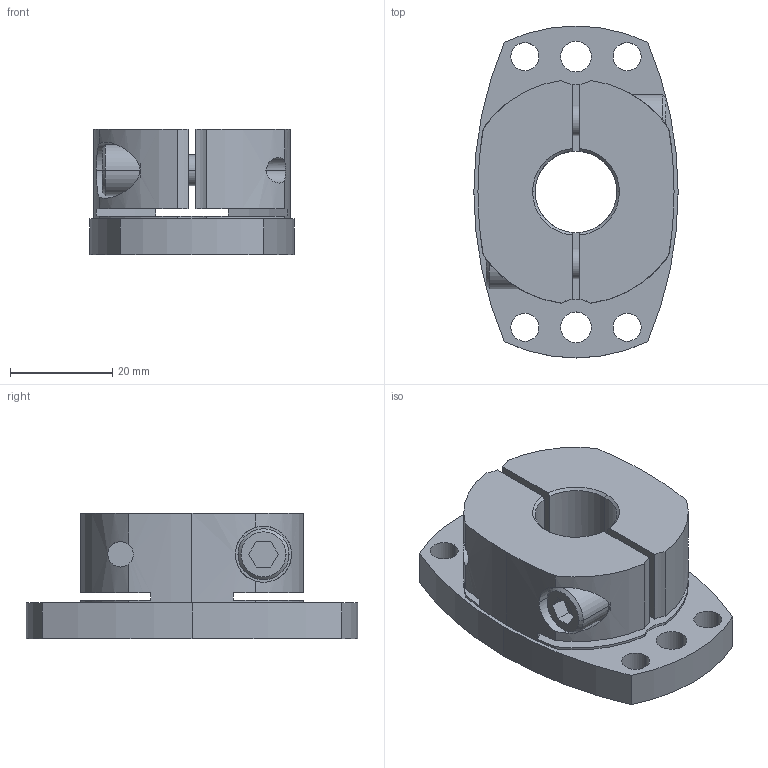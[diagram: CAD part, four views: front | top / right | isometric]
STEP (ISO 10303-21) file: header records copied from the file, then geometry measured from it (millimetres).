
FILE_DESCRIPTION((''),'2;1');
FILE_NAME('SHDB-65B-16.stp','2026-01-28T07:55:50',(''),(''),'AutoCAD STEP 2000i','AutoCAD 2000i',', , ');
FILE_SCHEMA(('CONFIG_CONTROL_DESIGN'));
Length unit declared in the file: millimetre
Products named in the file (2): SHDB-65B-16; 忣兜1
Assembly tree (1 placements, depth 2):
  SHDB-65B-16
    忣兜1
Bounding box: 40 x 65 x 24.5 mm (x, y, z)
Volume: 32215.4 mm3; surface area: 12699.9 mm2
Topology: 1 solids, 1 shells, 102 faces, 280 edges, 184 vertices
Faces by surface type: cylinder 58, plane 34, cone 10
Entity records: 3699 total; most frequent: CARTESIAN_POINT 872, DIRECTION 602, ORIENTED_EDGE 560, EDGE_CURVE 280, AXIS2_PLACEMENT_3D 238, VERTEX_POINT 184, CIRCLE 134, VECTOR 126
